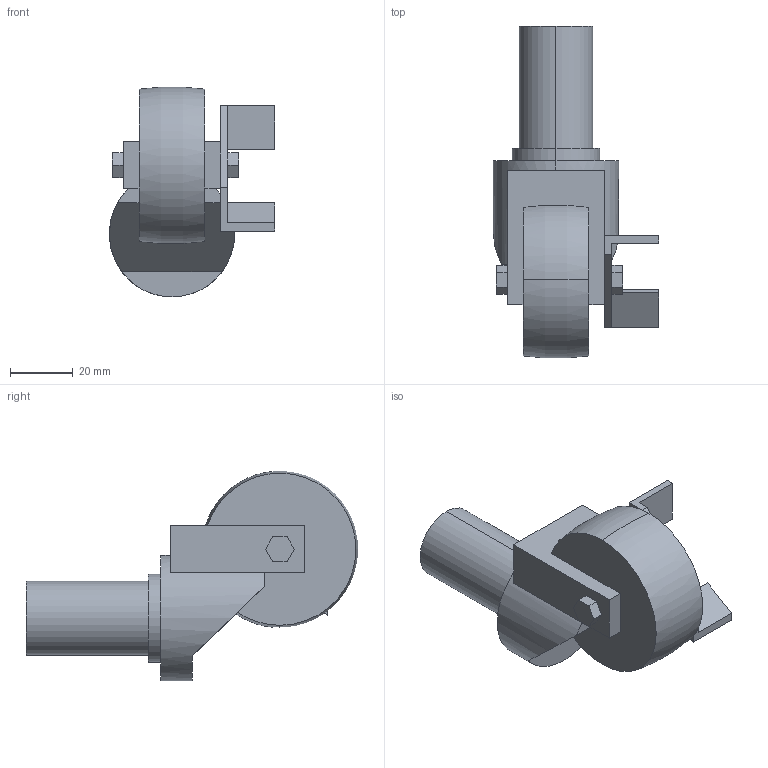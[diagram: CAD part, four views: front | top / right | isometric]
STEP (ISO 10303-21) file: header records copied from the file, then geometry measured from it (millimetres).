
FILE_DESCRIPTION (( 'STEP AP214' ), '1' );
FILE_NAME ('SGR50S TP.step', '2024-02-15T04:36:07', ( 'catia' ), ( 'HP Inc.' ), 'SwSTEP 2.0', 'SolidWorks 2021', '' );
FILE_SCHEMA (( 'AUTOMOTIVE_DESIGN' ));
Length unit declared in the file: millimetre
Products named in the file (1): SGR50S TP
Bounding box: 52.8 x 105.92 x 66.92 mm (x, y, z)
Volume: 93673.9 mm3; surface area: 17260.4 mm2
Topology: 1 solids, 1 shells, 56 faces, 144 edges, 94 vertices
Faces by surface type: plane 47, cylinder 6, torus 3
Entity records: 1727 total; most frequent: CARTESIAN_POINT 314, ORIENTED_EDGE 288, DIRECTION 278, EDGE_CURVE 144, VECTOR 116, LINE 116, VERTEX_POINT 94, AXIS2_PLACEMENT_3D 81
